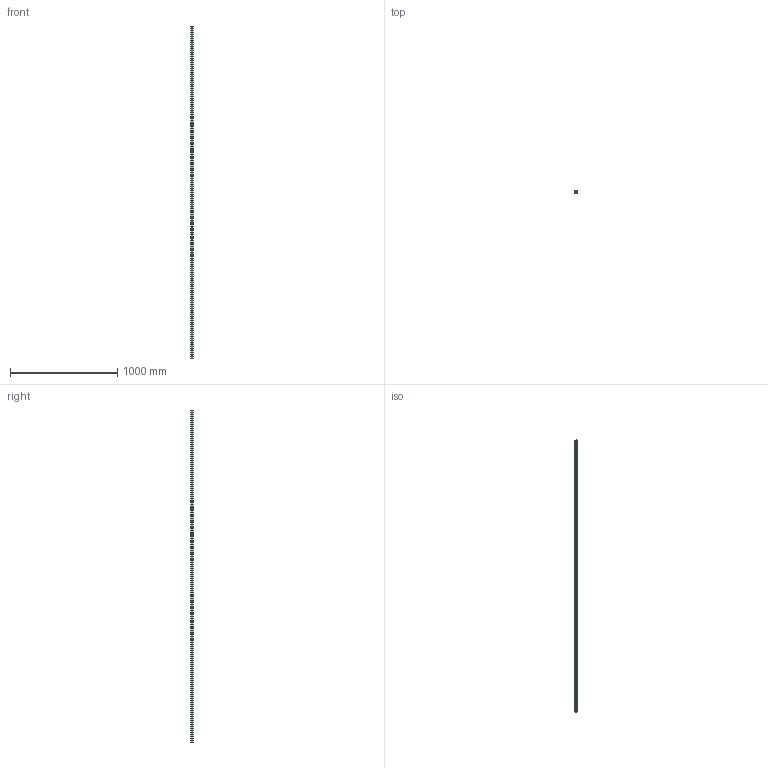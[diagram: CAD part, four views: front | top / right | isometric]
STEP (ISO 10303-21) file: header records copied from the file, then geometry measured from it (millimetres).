
FILE_DESCRIPTION (( 'STEP AP203' ), '1' );
FILE_NAME ('L1016.BRF25-3100.step', '2019-06-13T08:45:16', ( '' ), ( '' ), 'SwSTEP 2.0', 'SolidWorks 2017', '' );
FILE_SCHEMA (( 'CONFIG_CONTROL_DESIGN' ));
Length unit declared in the file: millimetre
Products named in the file (1): L1016.BRF25-3100
Bounding box: 23 x 19.2 x 3100 mm (x, y, z)
Volume: 1183599.5 mm3; surface area: 285232 mm2
Topology: 1 solids, 1 shells, 390 faces, 904 edges, 516 vertices
Faces by surface type: cylinder 212, cone 104, plane 74
Entity records: 10469 total; most frequent: DIRECTION 2006, CARTESIAN_POINT 1707, ORIENTED_EDGE 1600, AXIS2_PLACEMENT_3D 815, EDGE_CURVE 800, VERTEX_POINT 516, EDGE_LOOP 494, CIRCLE 424
